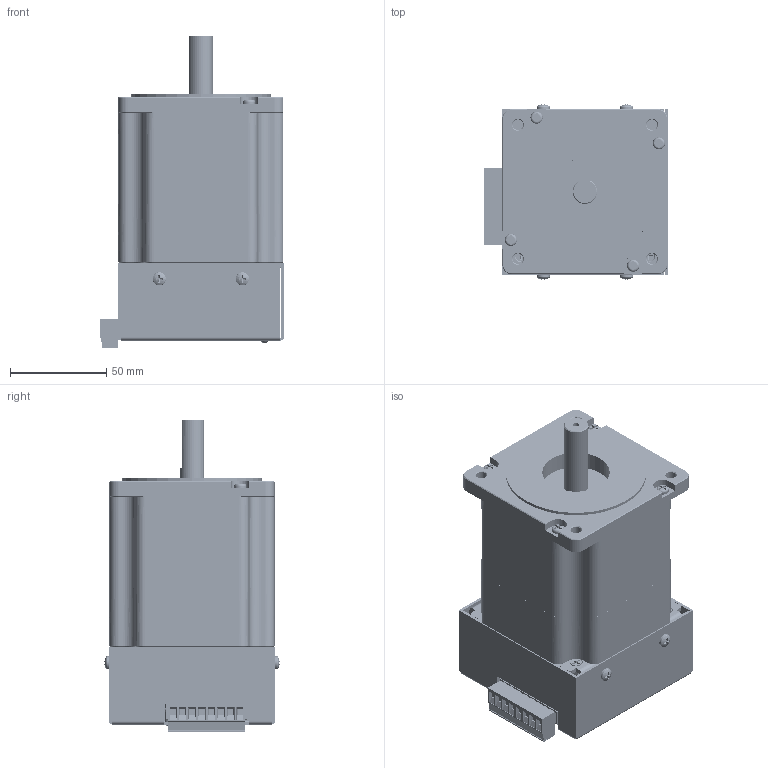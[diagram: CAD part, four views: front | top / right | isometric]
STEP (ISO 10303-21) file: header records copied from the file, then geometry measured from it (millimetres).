
FILE_DESCRIPTION (( 'STEP AP214' ), '1' );
FILE_NAME ('BLY34MDA2S.STEP', '2015-09-16T15:40:52', ( '' ), ( '' ), 'SwSTEP 2.0', 'SolidWorks 2015', '' );
FILE_SCHEMA (( 'AUTOMOTIVE_DESIGN' ));
Length unit declared in the file: inch
Products named in the file (26): RES-3W-.05; CON-B5B-EH-A; 1754562; 1757527; Cover, BLY34MDA Series; CAP-0223; SUB-AA5275A-1; AA5275APCB; 11pan cross head_ai_CR-PHMS 0.112-40x0.25x0.25-S; socket button head cap screw_ai_SBHCSCREW 0.138-32x0.375-HX-S; WSH-KE3049; flat head screw_ai_CR-FHMS 0.138-32x0.375x0.375-S; TRS-IRFB4710PBF; Base PLate, BLY34MDA Series; VRG-TL783CKC; BLY34MDAXS Series_BLY342D; TPE-661000751674-.75X2.00; 11pan cross head_ai_CR-PHMS 0.138-32x0.25x0.25-S; BLY34MDA2S; Standoff, 6-32x.250_STD-6321.0H; 11pan cross head_ai_CR-PHMS 0.138-32x0.5x0.5-S; Heat Sink, MDC150, MDC151, MDC155-050301; Standoff, 6-32x.250, ROUND_6-32 x .250; LED-SPR5731_LED-SPR5731-RED; LED-SPR5731_LED-SPR5731-GRN; LED-LTM Series_LED-LTM150
Assembly tree (59 placements, depth 3):
  BLY34MDA2S
    BLY34MDAXS Series_BLY342D
    Base PLate, BLY34MDA Series
    flat head screw_ai_CR-FHMS 0.138-32x0.375x0.375-S  x4
    socket button head cap screw_ai_SBHCSCREW 0.138-32x0.375-HX-S  x4
    SUB-AA5275A-1
      AA5275APCB
      CAP-0223  x2
      1757527
      CON-B5B-EH-A
      RES-3W-.05
      LED-LTM Series_LED-LTM150  x2
      LED-SPR5731_LED-SPR5731-GRN
      LED-SPR5731_LED-SPR5731-RED
      Standoff, 6-32x.250, ROUND_6-32 x .250  x2
      Heat Sink, MDC150, MDC151, MDC155-050301
      11pan cross head_ai_CR-PHMS 0.138-32x0.5x0.5-S  x2
      Standoff, 6-32x.250_STD-6321.0H  x2
      11pan cross head_ai_CR-PHMS 0.138-32x0.25x0.25-S  x2
      TPE-661000751674-.75X2.00  x2
      VRG-TL783CKC
      TRS-IRFB4710PBF  x6
      WSH-KE3049  x7
      11pan cross head_ai_CR-PHMS 0.112-40x0.25x0.25-S  x7
    Cover, BLY34MDA Series
    11pan cross head_ai_CR-PHMS 0.138-32x0.25x0.25-S  x4
    1754562
Bounding box: 95.36 x 91.01 x 162.33 mm (x, y, z)
Volume: 665127.8 mm3; surface area: 145290.5 mm2
Topology: 58 solids, 58 shells, 5554 faces, 14000 edges, 8868 vertices
Faces by surface type: plane 2752, cylinder 1155, cone 1083, bspline 468, torus 56, sphere 40
Entity records: 173760 total; most frequent: CARTESIAN_POINT 44828, ORIENTED_EDGE 18418, DIRECTION 16538, EDGE_CURVE 9209, LINE 6212, VECTOR 6212, VERTEX_POINT 5889, AXIS2_PLACEMENT_3D 5163
